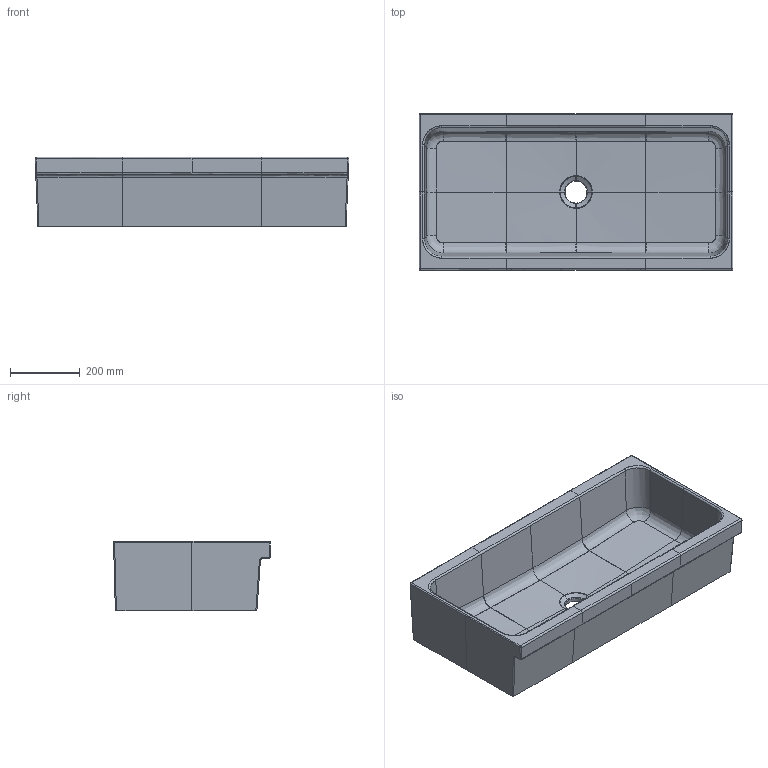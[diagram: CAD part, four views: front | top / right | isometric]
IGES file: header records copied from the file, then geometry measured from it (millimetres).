
Start section: START RECORD GO HERE.
Global section: file name: nuovo ART 2005_CANALE 90.igs; native system: DASSAULT SYSTEMES CATIA V5 R19 - www.3ds.com; preprocessor: CATIA Version 5 Release 19 SP 5 ; author: Luca; organization: DESKTOP-V7SON24; date: 20211010.093430; units: millimetre
Bounding box: 899.99 x 449.92 x 200 mm (x, y, z)
Surface area: 1669845.6 mm2 (no closed solid volume)
Topology: 0 solids, 0 shells, 234 faces, 1049 edges, 1040 vertices
Faces by surface type: bspline 154, revolution 50, plane 30
